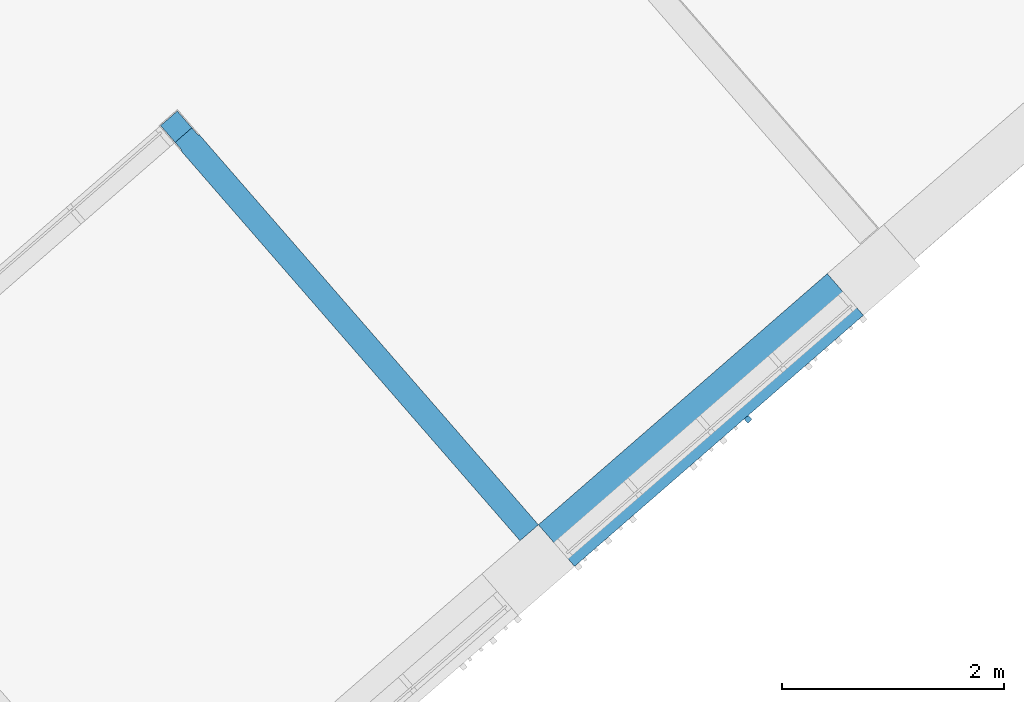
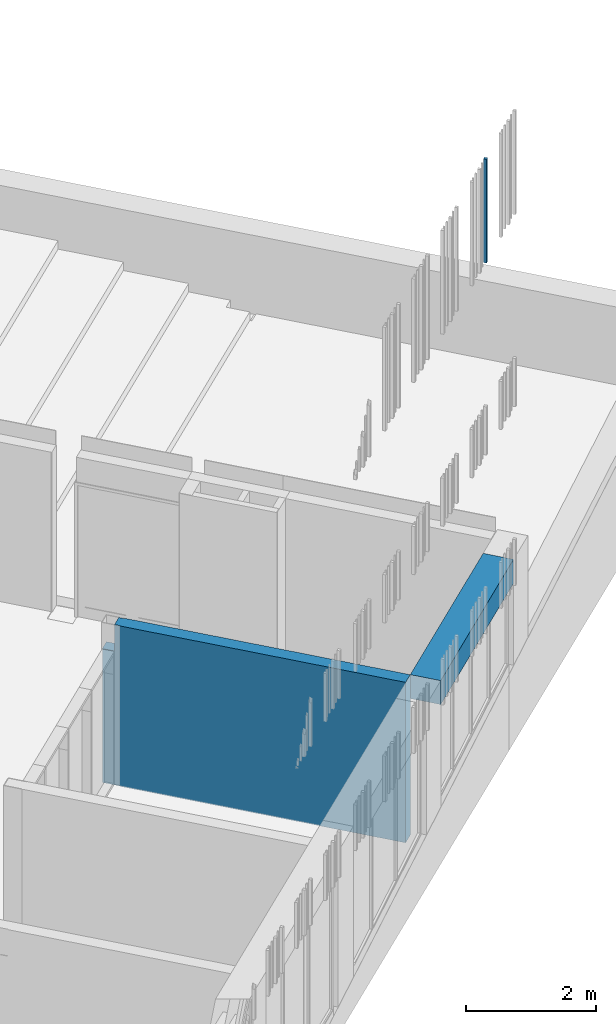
# One storey, part 75 of 124: 3 walls.
"""IFC2X3 building model written with IfcOpenShell, lengths in millimetres."""

import ifcopenshell
import ifcopenshell.guid

model = None  # the IFC model being written
_history = None  # IfcOwnerHistory: only IFC2X3 demands one
_inside = {}  # id of a spatial element -> (the spatial element, [elements in it])
_under = {}  # id of a project, library or spatial element -> (it, [spatial elements below it])
_declared = {}  # id of a project -> (the project, [libraries it declares])
_typed = {}  # id of a type object -> (the type object, [elements of that type])
_made_of = {}  # id of a material, layer set ... -> (it, [elements and type objects made of it])


def new_model(schema):
    """Start an empty IFC model of exactly this schema.

    Asked for "IFC4X3", IfcOpenShell would pick the latest addendum, in which some entities
    have other attributes; the version numbers below select the first issue.
    IFC2X3 requires an IfcOwnerHistory on every rooted entity: one is made here for all.
    """
    global model, _history
    if schema == "IFC4X3":
        model = ifcopenshell.file(schema_version=(4, 3, 0, 0))
    else:
        model = ifcopenshell.file(schema=schema)
    _inside.clear()
    _under.clear()
    _declared.clear()
    _typed.clear()
    _made_of.clear()
    _history = None
    if model.schema == "IFC2X3":
        org = make("IfcOrganization", Name="unknown")
        user = make(
            "IfcPersonAndOrganization",
            ThePerson=make("IfcPerson", FamilyName="unknown"),
            TheOrganization=org,
        )
        app = make(
            "IfcApplication",
            ApplicationDeveloper=org,
            Version="unknown",
            ApplicationFullName="unknown",
            ApplicationIdentifier="unknown",
        )
        _history = make(
            "IfcOwnerHistory",
            OwningUser=user,
            OwningApplication=app,
            ChangeAction="ADDED",
            CreationDate=0,
        )
    return model


def make(cls, **values):
    """One entity of the class cls with the attributes given. An attribute that is None is left unset."""
    return model.create_entity(
        cls, **{name: value for name, value in values.items() if value is not None}
    )


def entity(cls, *values):
    """Any entity or typed value of the class cls, its attributes in the order of the schema. None: left unset."""
    e = model.create_entity(cls)
    for i, value in enumerate(values):
        if value is not None:
            e[i] = value
    return e


def rooted(cls, **values):
    """An entity with a GlobalId (a new one), such as an element, a storey or a relation."""
    return make(cls, GlobalId=ifcopenshell.guid.new(), OwnerHistory=_history, **values)


def si_unit(unit_type, name, prefix=None):
    """IfcSIUnit, for example si_unit("LENGTHUNIT", "METRE", prefix="MILLI")."""
    return make("IfcSIUnit", UnitType=unit_type, Prefix=prefix, Name=name)


def converted_unit(unit_type, name, factor, base, dimensions=None, offset=None):
    """IfcConversionBasedUnit, such as the inch: factor (a typed value) times the base unit."""
    return make(
        "IfcConversionBasedUnit"
        if offset is None
        else "IfcConversionBasedUnitWithOffset",
        ConversionOffset=offset,
        Dimensions=None
        if dimensions is None
        else entity("IfcDimensionalExponents", *dimensions),
        UnitType=unit_type,
        Name=name,
        ConversionFactor=make(
            "IfcMeasureWithUnit", ValueComponent=factor, UnitComponent=base
        ),
    )


def derived_unit(unit_type, elements):
    """IfcDerivedUnit: a product of units, each with its exponent."""
    return make(
        "IfcDerivedUnit",
        Elements=[
            make("IfcDerivedUnitElement", Unit=unit, Exponent=power)
            for unit, power in elements
        ],
        UnitType=unit_type,
    )


def money_unit(currency):
    """IfcMonetaryUnit."""
    return make("IfcMonetaryUnit", Currency=currency)


def assignment(units):
    """IfcUnitAssignment: the units of a project."""
    return None if units is None else make("IfcUnitAssignment", Units=units)


def point(xyz):
    """IfcCartesianPoint."""
    return None if xyz is None else make("IfcCartesianPoint", Coordinates=xyz)


def direction(xyz):
    """IfcDirection."""
    return None if xyz is None else make("IfcDirection", DirectionRatios=xyz)


def frame(location, z_axis=None, x_axis=None):
    """IfcAxis2Placement3D, a coordinate frame: its origin and axes. An axis left out is left unset."""
    return make(
        "IfcAxis2Placement3D",
        Location=point(location),
        Axis=direction(z_axis),
        RefDirection=direction(x_axis),
    )


def origin_with_axes():
    """The frame at (0, 0, 0) with the z axis (0, 0, 1) and the x axis (1, 0, 0) written out."""
    return frame((0.0, 0.0, 0.0), z_axis=(0.0, 0.0, 1.0), x_axis=(1.0, 0.0, 0.0))


def place(relative_to, where):
    """IfcLocalPlacement: puts the frame where relative to a parent placement (None: the world)."""
    return make(
        "IfcLocalPlacement", PlacementRelTo=relative_to, RelativePlacement=where
    )


def context(
    kind, dimensions, precision=None, world=None, true_north=None, identifier=None
):
    """IfcGeometricRepresentationContext, for example the 3D "Model" context."""
    return make(
        "IfcGeometricRepresentationContext",
        ContextIdentifier=identifier,
        ContextType=kind,
        CoordinateSpaceDimension=dimensions,
        Precision=precision,
        WorldCoordinateSystem=world,
        TrueNorth=true_north,
    )


def subcontext(parent, identifier, kind, view, scale=None):
    """IfcGeometricRepresentationSubContext, for example "Body" below "Model"."""
    return make(
        "IfcGeometricRepresentationSubContext",
        ContextIdentifier=identifier,
        ContextType=kind,
        ParentContext=parent,
        TargetScale=scale,
        TargetView=view,
    )


def project(units=None, contexts=None):
    """IfcProject with its units and contexts."""
    return rooted(
        "IfcProject",
        Name="project",
        RepresentationContexts=contexts,
        UnitsInContext=assignment(units),
    )


def spatial(cls, under=None, at=None, **own):
    """A site, building, storey or space (cls), placed at a placement, below another one or the project."""
    s = rooted(cls, ObjectPlacement=at, **own)
    if under is not None:
        _under.setdefault(under.id(), (under, []))[1].append(s)
    return s


def faces_of(points, faces, orient=None, outer=None):
    """IfcFace entities. A face is a list of loops; a loop is a list of indices into points, from 0.

    orient and outer hold one flag for each loop. By default every Orientation is true, the
    first loop of a face is its IfcFaceOuterBound and the others are IfcFaceBound.
    """
    made = []
    for i, loops in enumerate(faces):
        bounds = []
        for j, loop in enumerate(loops):
            is_outer = j == 0 if outer is None else outer[i][j]
            bounds.append(
                make(
                    "IfcFaceOuterBound" if is_outer else "IfcFaceBound",
                    Bound=make("IfcPolyLoop", Polygon=[points[k] for k in loop]),
                    Orientation=True if orient is None else orient[i][j],
                )
            )
        made.append(make("IfcFace", Bounds=bounds))
    return made


def faceted_brep(points, faces, orient=None, outer=None, voids=None):
    """IfcFacetedBrep: a solid bounded by flat faces; with voids (closed shells), ...WithVoids."""
    shared = [point(p) for p in points]
    hull = make("IfcClosedShell", CfsFaces=faces_of(shared, faces, orient, outer))
    if voids is None:
        return make("IfcFacetedBrep", Outer=hull)
    return make(
        "IfcFacetedBrepWithVoids",
        Outer=hull,
        Voids=[
            make(cls, CfsFaces=faces_of(shared, fs, o, b)) for cls, fs, o, b in voids
        ],
    )


def shape(context_of_items, identifier, shape_type, items):
    """IfcShapeRepresentation: the items that make up one representation, for example the "Body"."""
    return make(
        "IfcShapeRepresentation",
        ContextOfItems=context_of_items,
        RepresentationIdentifier=identifier,
        RepresentationType=shape_type,
        Items=items,
    )


def material(Name=None, Category=None):
    """IfcMaterial."""
    return make("IfcMaterial", Name=Name, Category=Category)


def material_list(materials):
    """IfcMaterialList."""
    return make("IfcMaterialList", Materials=materials)


def made_of(thing, what):
    """Note that an element or type object is made of a material, layer set ...; save() writes the relation."""
    if what is not None:
        _made_of.setdefault(what.id(), (what, []))[1].append(thing)
    return thing


def type_object(cls, material=None, **own):
    """A type object (cls), such as IfcWallType, which elements share."""
    return made_of(rooted(cls, **own), material)


def element(
    cls,
    number,
    at=None,
    inside=None,
    cuts=None,
    type_object=None,
    material=None,
    context=None,
    identifier="Body",
    shape_type=None,
    held_by="IfcProductDefinitionShape",
    body=None,
    shapes=None,
    **own,
):
    """One element of the class cls, such as IfcWall. Its Tag is "e" and its number.

    at: its placement. inside: the storey or other place that contains it. cuts: it is an
    opening in that element (IfcRelVoidsElement). A single representation is given by context,
    identifier, shape_type and body (its items); several are given by shapes. held_by: the class
    of the entity that holds the representations. save() writes the other relations.
    """
    e = rooted(cls, Tag="e%d" % number, ObjectPlacement=at, **own)
    if body is not None:
        shapes = [shape(context, identifier, shape_type, body)]
    if shapes is not None:
        e.Representation = make(held_by, Representations=shapes)
    if inside is not None:
        _inside.setdefault(inside.id(), (inside, []))[1].append(e)
    if cuts is not None:
        rooted(
            "IfcRelVoidsElement", RelatingBuildingElement=cuts, RelatedOpeningElement=e
        )
    if type_object is not None:
        _typed.setdefault(type_object.id(), (type_object, []))[1].append(e)
    return made_of(e, material)


def aggregate(whole, parts):
    """IfcRelAggregates: a whole, such as a stair, and the parts it consists of."""
    return rooted("IfcRelAggregates", RelatingObject=whole, RelatedObjects=parts)


def save(model, path):
    """Write the relations noted so far, then the file.

    IfcRelAggregates (storeys below a building ...), IfcRelContainedInSpatialStructure (elements
    in a storey), IfcRelDefinesByType, IfcRelAssociatesMaterial and IfcRelDeclares: one each for
    every whole, place, type object, material and project.
    """
    for whole, parts in _under.values():
        aggregate(whole, parts)
    for where, things in _inside.values():
        rooted(
            "IfcRelContainedInSpatialStructure",
            RelatedElements=things,
            RelatingStructure=where,
        )
    for kind, things in _typed.values():
        rooted("IfcRelDefinesByType", RelatedObjects=things, RelatingType=kind)
    for what, things in _made_of.values():
        rooted("IfcRelAssociatesMaterial", RelatedObjects=things, RelatingMaterial=what)
    for by, libraries in _declared.values():
        rooted("IfcRelDeclares", RelatingContext=by, RelatedDefinitions=libraries)
    model.write(path)


model = new_model("IFC2X3")

# Units and contexts
model_context = context("Model", 3, precision=1e-05, world=origin_with_axes(), true_north=direction((0.0, 1.0)))
body_context = subcontext(model_context, "Body", "Model", "MODEL_VIEW")
ifc_project = project(units=[si_unit("LENGTHUNIT", "METRE", prefix="MILLI"), si_unit("AREAUNIT", "SQUARE_METRE"), si_unit("VOLUMEUNIT", "CUBIC_METRE"), converted_unit("PLANEANGLEUNIT", "DEGREE", entity("IfcPlaneAngleMeasure", 0.0174532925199), si_unit("PLANEANGLEUNIT", "RADIAN"), dimensions=[0, 0, 0, 0, 0, 0, 0]), si_unit("SOLIDANGLEUNIT", "STERADIAN"), money_unit("EUR"), converted_unit("TIMEUNIT", "Year", entity("IfcTimeMeasure", 31556926.0), si_unit("TIMEUNIT", "SECOND"), dimensions=[0, 0, 1, 0, 0, 0, 0]), si_unit("MASSUNIT", "GRAM", prefix="KILO"), si_unit("THERMODYNAMICTEMPERATUREUNIT", "DEGREE_CELSIUS"), si_unit("LUMINOUSINTENSITYUNIT", "LUMEN"), si_unit("ENERGYUNIT", "JOULE", prefix="MEGA"), derived_unit("THERMALCONDUCTANCEUNIT", [(si_unit("POWERUNIT", "WATT"), 1), (si_unit("LENGTHUNIT", "METRE"), -1), (si_unit("THERMODYNAMICTEMPERATUREUNIT", "KELVIN"), -1)]), derived_unit("SPECIFICHEATCAPACITYUNIT", [(si_unit("ENERGYUNIT", "JOULE"), 1), (si_unit("MASSUNIT", "GRAM", prefix="KILO"), -1), (si_unit("THERMODYNAMICTEMPERATUREUNIT", "KELVIN"), -1)]), derived_unit("MASSDENSITYUNIT", [(si_unit("MASSUNIT", "GRAM", prefix="KILO"), 1), (si_unit("VOLUMEUNIT", "CUBIC_METRE"), -1)])], contexts=[model_context])

# Site, building, storey
site_placement = place(None, origin_with_axes())
site = spatial("IfcSite", under=ifc_project, at=site_placement, Name="Site", CompositionType="ELEMENT")
building_placement = place(site_placement, origin_with_axes())
building = spatial("IfcBuilding", under=site, at=building_placement, Name="Building", CompositionType="ELEMENT")
storey_placement = place(building_placement, frame((0.0, 0.0, -1615.0), z_axis=(0.0, 0.0, 1.0), x_axis=(1.0, 0.0, 0.0)))
storey = spatial("IfcBuildingStorey", under=building, at=storey_placement, Name="0  korrus", CompositionType="ELEMENT", Elevation=-1615.0)

# Walls
ifc_material_1 = material(Name="Krohv - Lubjakivi")
ifc_material_2 = material(Name="Müüriplokk - Konstuktsioon")
ifc_material_list_1 = material_list([ifc_material_1, ifc_material_2, ifc_material_1])
wall_type_1 = type_object("IfcWallType", Name="SS-01", PredefinedType="NOTDEFINED")
wall_1_placement = place(storey_placement, frame((165780.556522, 96005.1770593, -20.0), z_axis=(0.0, 0.0, 1.0), x_axis=(0.656059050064, -0.754709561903, 0.0)))
element("IfcWall", 1, at=wall_1_placement, inside=storey, type_object=wall_type_1, material=ifc_material_list_1, Name="SS-01", context=body_context, shape_type="Brep", body=[
    faceted_brep([(300.0, 220.0, 0.0), (300.0, 220.0, 3020.0), (4960.00000043, 220.0, 3020.0), (4960.00000043, 220.0, 0.0), (300.0, 210.0, 3020.0), (300.0, 210.0, 0.0), (4960.00000043, 210.0, 3020.0), (4960.00000043, 210.0, 0.0)], [[[0, 1, 2, 3]], [[4, 1, 0, 5]], [[1, 4, 6, 2]], [[2, 6, 7, 3]], [[5, 0, 3, 7]], [[4, 5, 7, 6]]]),
    faceted_brep([(10.0, 210.0, 0.0), (10.0, 210.0, 2520.0), (210.000005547, 210.0, 2520.0), (210.000005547, 210.0, 3020.0), (4960.00000043, 210.0, 3020.0), (4960.00000043, 210.0, 0.0), (9.99999999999, 9.99999999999, 2520.0), (9.99999999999, 9.99999999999, 0.0), (210.000000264, 9.99999999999, 2520.0), (210.000000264, 9.99999999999, 3020.0), (4960.00000043, 9.99999999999, 3020.0), (4960.00000043, 9.99999999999, 0.0)], [[[0, 1, 2, 3, 4, 5]], [[6, 1, 0, 7]], [[1, 6, 8, 2]], [[3, 2, 8, 9]], [[9, 10, 4, 3]], [[5, 4, 10, 11]], [[7, 0, 5, 11]], [[6, 7, 11, 10, 9, 8]]]),
    faceted_brep([(300.0, 10.0, 0.0), (300.0, 10.0, 3020.0), (4960.00000043, 9.99999999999, 3020.0), (4960.00000043, 9.99999999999, 0.0), (300.0, 0.0, 3020.0), (300.0, 0.0, 0.0), (4960.00000043, 0.0, 3020.0), (4960.00000043, 0.0, 0.0)], [[[0, 1, 2, 3]], [[4, 1, 0, 5]], [[1, 4, 6, 2]], [[2, 6, 7, 3]], [[5, 0, 3, 7]], [[4, 5, 7, 6]]]),
])
ifc_material_3 = material(Name="Puit - Konstruktsioon")
ifc_material_4 = material(Name="Õhkvahe")
ifc_material_5 = material(Name="Soojustus - Plastik Kõva")
ifc_material_6 = material(Name="Raudbetoon - Toode")
ifc_material_list_2 = material_list([ifc_material_3, ifc_material_3, ifc_material_4, ifc_material_5, ifc_material_5, ifc_material_6, ifc_material_1])
wall_type_2 = type_object("IfcWallType", Name="VS-01", PredefinedType="NOTDEFINED")
wall_2_placement = place(storey_placement, frame((171804.393831, 94669.5545018, 2550.0), z_axis=(0.0, 0.0, 1.0), x_axis=(-0.754709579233, -0.656059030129, 0.0)))
element("IfcWall", 2, at=wall_2_placement, inside=storey, type_object=wall_type_2, material=ifc_material_list_2, Name="VS-01", context=body_context, shape_type="Brep", body=[
    faceted_brep([(3450.00034988, 497.0, 0.0), (3450.00034988, 475.0, 0.0), (0.0, 475.0, 0.0), (0.0, 497.0, 0.0), (3450.00034988, 497.0, 450.0), (3450.00034988, 475.0, 450.0), (0.0, 475.0, 450.0), (0.0, 497.0, 450.0)], [[[0, 1, 2, 3]], [[0, 4, 5, 1]], [[1, 5, 6, 2]], [[3, 2, 6, 7]], [[4, 0, 3, 7]], [[5, 4, 7, 6]]]),
    faceted_brep([(3450.00034988, 475.0, 0.0), (3450.00034988, 455.0, 0.0), (0.0, 455.0, 0.0), (0.0, 475.0, 0.0), (3450.00034988, 475.0, 450.0), (3450.00034988, 455.0, 450.0), (0.0, 455.0, 450.0), (0.0, 475.0, 450.0)], [[[0, 1, 2, 3]], [[0, 4, 5, 1]], [[1, 5, 6, 2]], [[3, 2, 6, 7]], [[4, 0, 3, 7]], [[5, 4, 7, 6]]]),
    faceted_brep([(3450.00034988, 455.0, 0.0), (3450.00034988, 410.0, 0.0), (0.0, 410.0, 0.0), (0.0, 455.0, 0.0), (3450.00034988, 455.0, 450.0), (3450.00034988, 410.0, 450.0), (0.0, 410.0, 450.0), (0.0, 455.0, 450.0)], [[[0, 1, 2, 3]], [[0, 4, 5, 1]], [[1, 5, 6, 2]], [[3, 2, 6, 7]], [[4, 0, 3, 7]], [[5, 4, 7, 6]]]),
    faceted_brep([(3450.00034988, 410.0, 0.0), (3450.00034988, 360.0, 0.0), (0.0, 360.0, 0.0), (0.0, 410.0, 0.0), (3450.00034988, 410.0, 450.0), (3450.00034988, 360.0, 450.0), (0.0, 360.0, 450.0), (0.0, 410.0, 450.0)], [[[0, 1, 2, 3]], [[0, 4, 5, 1]], [[1, 5, 6, 2]], [[3, 2, 6, 7]], [[4, 0, 3, 7]], [[5, 4, 7, 6]]]),
    faceted_brep([(3450.00034988, 360.0, 0.0), (3450.00034988, 210.0, 0.0), (0.0, 210.0, 0.0), (0.0, 360.0, 0.0), (3450.00034988, 360.0, 450.0), (3450.00034988, 210.0, 450.0), (0.0, 210.0, 450.0), (0.0, 360.0, 450.0)], [[[0, 1, 2, 3]], [[0, 4, 5, 1]], [[1, 5, 6, 2]], [[3, 2, 6, 7]], [[4, 0, 3, 7]], [[5, 4, 7, 6]]]),
    faceted_brep([(3450.00034988, 210.0, 0.0), (3450.00034988, 10.0, 0.0), (0.0, 10.0, 0.0), (0.0, 210.0, 0.0), (3450.00034988, 210.0, 450.0), (3450.00034988, 10.0, 450.0), (0.0, 10.0, 450.0), (0.0, 210.0, 450.0)], [[[0, 1, 2, 3]], [[0, 4, 5, 1]], [[1, 5, 6, 2]], [[3, 2, 6, 7]], [[4, 0, 3, 7]], [[5, 4, 7, 6]]]),
    faceted_brep([(3450.00034988, 10.0, 0.0), (3450.00034988, 0.0, 0.0), (0.0, 0.0, 0.0), (0.0, 10.0, 0.0), (3450.00034988, 10.0, 450.0), (3450.00034988, 0.0, 450.0), (0.0, 0.0, 450.0), (0.0, 10.0, 450.0)], [[[0, 1, 2, 3]], [[0, 4, 5, 1]], [[1, 5, 6, 2]], [[3, 2, 6, 7]], [[4, 0, 3, 7]], [[5, 4, 7, 6]]]),
])
ifc_material_7 = material(Name="Site specified")
wall_type_3 = type_object("IfcWallType", Name="Puitfassaadi ribistik", PredefinedType="NOTDEFINED")
wall_3_placement = place(storey_placement, frame((171090.249472, 93357.1014923, 9530.0), z_axis=(0.0, 0.0, 1.0), x_axis=(-0.754709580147, -0.656059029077, 0.0)))
element("IfcWall", 3, at=wall_3_placement, inside=storey, type_object=wall_type_3, material=ifc_material_7, Name="Site specified", context=body_context, shape_type="Brep", body=[
    faceted_brep([(25.0, 25.0, 1950.0), (25.0, 25.0, 0.0), (-25.0, 25.0, 0.0), (-25.0, 25.0, 1950.0), (25.0, -25.0, 1950.0), (25.0, -25.0, 0.0), (-25.0, -25.0, 0.0), (-25.0, -25.0, 1950.0)], [[[0, 1, 2, 3]], [[4, 5, 1, 0]], [[2, 1, 5, 6]], [[3, 2, 6, 7]], [[4, 0, 3, 7]], [[7, 6, 5, 4]]]),
])

save(model, "model.ifc")
